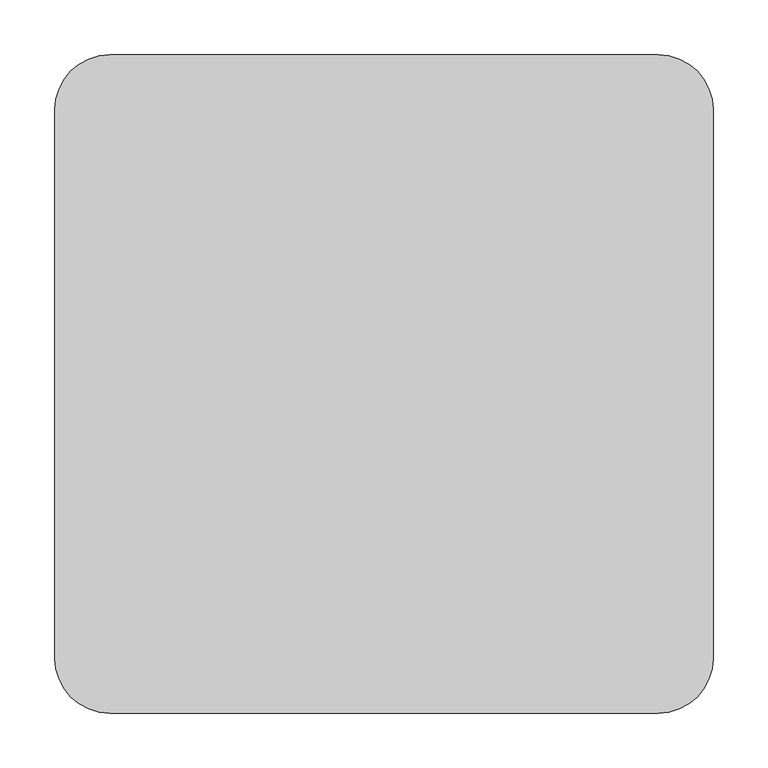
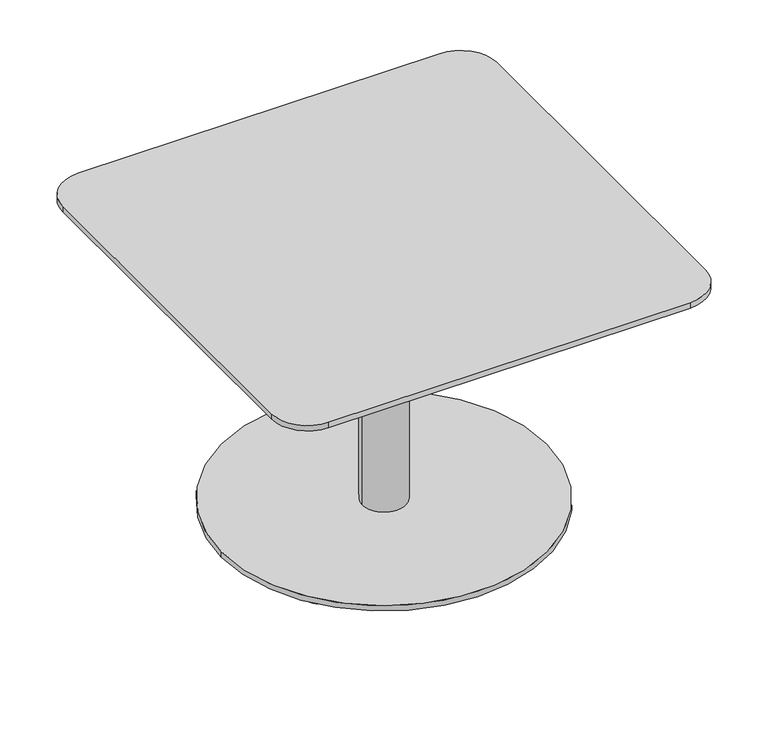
"""IFC4 building model written with IfcOpenShell, lengths in millimetres: furniture geometry, Vestre - Munch Table - 5131 : Vestre - Munch Table - 5131."""

from ifc_helpers import new_model, si_unit, point, frame, frame_2d, origin, origin_with_axes, origin_2d, place, context, project, spatial, polyline, circle_curve, trimmed, segment, composite_curve, outline, extrude, source, transform, mapped, element, save


def furniture_952c6e6f(model_context):
    return source(origin(), model_context, "Body", "SweptSolid", [
        extrude(outline(composite_curve([segment(polyline([(-250.0, 300.0), (250.0, 300.0)]), True, "CONTINUOUS"), segment(trimmed(circle_curve(frame_2d((250.0, 250.0)), 50.0), [point((250.0, 300.0))], [point((300.0, 250.0))], False, "CARTESIAN"), True, "CONTINUOUS"), segment(polyline([(300.0, 250.0), (300.0, -250.0)]), True, "CONTINUOUS"), segment(trimmed(circle_curve(frame_2d((250.0, -250.0)), 50.0), [point((300.0, -250.0))], [point((250.0, -300.0))], False, "CARTESIAN"), True, "CONTINUOUS"), segment(polyline([(250.0, -300.0), (-250.0, -300.0)]), True, "CONTINUOUS"), segment(trimmed(circle_curve(frame_2d((-250.0, -250.0)), 50.0), [point((-250.0, -300.0))], [point((-300.0, -250.0))], False, "CARTESIAN"), True, "CONTINUOUS"), segment(polyline([(-300.0, -250.0), (-300.0, 250.0)]), True, "CONTINUOUS"), segment(trimmed(circle_curve(frame_2d((-250.0, 250.0)), 50.0), [point((-300.0, 250.0))], [point((-250.0, 300.0))], False, "CARTESIAN"), True, "CONTINUOUS")], self_intersect=False)), frame((0.0, 0.0, 392.0), z_axis=(0.0, 0.0, 1.0), x_axis=(1.0, 0.0, 0.0)), (0.0, 0.0, 1.0), 7.85),
        extrude(outline(composite_curve([segment(trimmed(circle_curve(frame_2d((-153.9130034, -111.52459)), 19.0), [point((-172.9130034, -111.52459))], [point((-134.9130034, -111.52459))], False, "CARTESIAN"), True, "CONTINUOUS"), segment(trimmed(circle_curve(frame_2d((-153.9130034, -111.52459)), 19.0), [point((-134.9130034, -111.52459))], [point((-172.9130034, -111.52459))], False, "CARTESIAN"), True, "CONTINUOUS")], self_intersect=False)), origin_with_axes(), (0.0, 0.0, 1.0), 12.0),
        extrude(outline(composite_curve([segment(trimmed(circle_curve(frame_2d((58.5136425, -181.3237178)), 19.0), [point((77.5136425, -181.3237178))], [point((39.5136425, -181.3237178))], False, "CARTESIAN"), True, "CONTINUOUS"), segment(trimmed(circle_curve(frame_2d((58.5136425, -181.3237178)), 19.0), [point((39.5136425, -181.3237178))], [point((77.5136425, -181.3237178))], False, "CARTESIAN"), True, "CONTINUOUS")], self_intersect=False)), origin_with_axes(), (0.0, 0.0, 1.0), 12.0),
        extrude(outline(composite_curve([segment(trimmed(circle_curve(frame_2d((190.1702104, -0.1697648)), 19.0), [point((209.1702104, -0.1697648))], [point((171.1702104, -0.1697648))], False, "CARTESIAN"), True, "CONTINUOUS"), segment(trimmed(circle_curve(frame_2d((190.1702104, -0.1697648)), 19.0), [point((171.1702104, -0.1697648))], [point((209.1702104, -0.1697648))], False, "CARTESIAN"), True, "CONTINUOUS")], self_intersect=False)), origin_with_axes(), (0.0, 0.0, 1.0), 12.0),
        extrude(outline(composite_curve([segment(trimmed(circle_curve(frame_2d((58.6453704, 180.7101814)), 19.0), [point((77.6453704, 180.7101814))], [point((39.6453704, 180.7101814))], False, "CARTESIAN"), True, "CONTINUOUS"), segment(trimmed(circle_curve(frame_2d((58.6453704, 180.7101814)), 19.0), [point((39.6453704, 180.7101814))], [point((77.6453704, 180.7101814))], False, "CARTESIAN"), True, "CONTINUOUS")], self_intersect=False)), origin_with_axes(), (0.0, 0.0, 1.0), 12.0),
        extrude(outline(composite_curve([segment(trimmed(circle_curve(frame_2d((-153.730807, 111.6727884)), 19.0), [point((-134.730807, 111.6727884))], [point((-172.730807, 111.6727884))], False, "CARTESIAN"), True, "CONTINUOUS"), segment(trimmed(circle_curve(frame_2d((-153.730807, 111.6727884)), 19.0), [point((-172.730807, 111.6727884))], [point((-134.730807, 111.6727884))], False, "CARTESIAN"), True, "CONTINUOUS")], self_intersect=False)), origin_with_axes(), (0.0, 0.0, 1.0), 12.0),
        extrude(outline(composite_curve([segment(trimmed(circle_curve(origin_2d(), 225.0), [point((-225.0, 0.0))], [point((225.0, 0.0))], False, "CARTESIAN"), True, "CONTINUOUS"), segment(trimmed(circle_curve(origin_2d(), 225.0), [point((225.0, 0.0))], [point((-225.0, 0.0))], False, "CARTESIAN"), True, "CONTINUOUS")], self_intersect=False)), frame((0.0, 0.0, 12.0), z_axis=(0.0, 0.0, 1.0), x_axis=(1.0, 0.0, 0.0)), (0.0, 0.0, 1.0), 7.85),
        extrude(outline(composite_curve([segment(trimmed(circle_curve(origin_2d(), 30.15), [point((-30.15, 0.0))], [point((30.15, 0.0))], False, "CARTESIAN"), True, "CONTINUOUS"), segment(trimmed(circle_curve(origin_2d(), 30.15), [point((30.15, 0.0))], [point((-30.15, 0.0))], False, "CARTESIAN"), True, "CONTINUOUS")], self_intersect=False)), frame((0.0, 0.0, 19.85), z_axis=(0.0, 0.0, 1.0), x_axis=(1.0, 0.0, 0.0)), (0.0, 0.0, 1.0), 372.15),
    ])


if __name__ == "__main__":
    model = new_model("IFC4")
    model_context = context("Model", 3, world=origin())
    ifc_project = project(units=[si_unit("LENGTHUNIT", "METRE", prefix="MILLI")], contexts=[model_context])
    site = spatial("IfcSite", under=ifc_project)
    building = spatial("IfcBuilding", under=site)
    placement = place(None, origin())
    furniture_shape = furniture_952c6e6f(model_context)
    element("IfcFurniture", 1, ObjectType="Vestre - Munch Table - 5131 : Vestre - Munch Table - 5131", at=placement, inside=building, context=model_context, shape_type="MappedRepresentation", body=[
        mapped(furniture_shape, transform((0.0, 0.0, 0.0), x_axis=(1.0, 0.0, 0.0), y_axis=(0.0, 1.0, 0.0), z_axis=(0.0, 0.0, 1.0))),
    ])
    save(model, "model.ifc")
